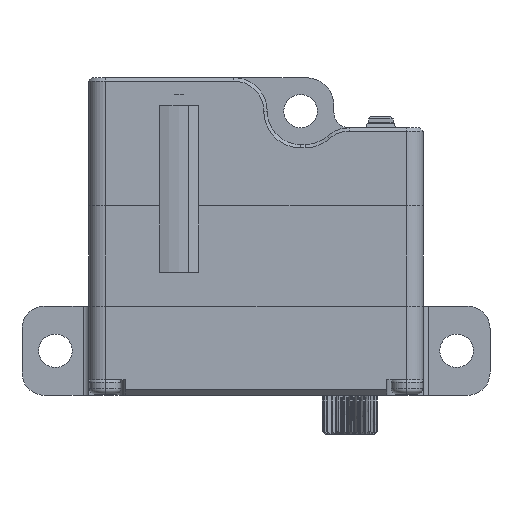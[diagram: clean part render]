
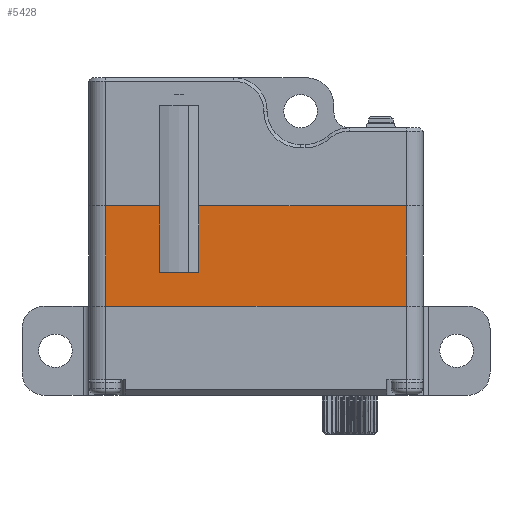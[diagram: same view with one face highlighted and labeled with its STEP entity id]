
A CAD part, left-side view. The second image highlights one B-rep face of the part: STEP entity #5428.
In plain terms, the highlighted planar face has unit normal (-1, 0, 0).
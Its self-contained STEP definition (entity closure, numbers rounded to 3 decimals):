
#821 = VERTEX_POINT ( 'NONE', #1037 ) ;
#1037 = CARTESIAN_POINT ( 'NONE',  ( -60.653, 4.865, 5.86 ) ) ;
#1995 = LINE ( 'NONE', #6853, #16471 ) ;
#2201 = DIRECTION ( 'NONE',  ( 0., 0., 1. ) ) ;
#2418 = DIRECTION ( 'NONE',  ( 0., 0., -1. ) ) ;
#2442 = EDGE_CURVE ( 'NONE', #13128, #3872, #9398, .T. ) ;
#3354 = ORIENTED_EDGE ( 'NONE', *, *, #21342, .T. ) ;
#3563 = LINE ( 'NONE', #8516, #6217 ) ;
#3840 = VECTOR ( 'NONE', #2418, 1000. ) ;
#3872 = VERTEX_POINT ( 'NONE', #13636 ) ;
#4441 = ORIENTED_EDGE ( 'NONE', *, *, #21484, .T. ) ;
#4700 = DIRECTION ( 'NONE',  ( -1., 0., 0. ) ) ;
#4837 = CARTESIAN_POINT ( 'NONE',  ( -60.653, 4.865, -3.59 ) ) ;
#5366 = CARTESIAN_POINT ( 'NONE',  ( -60.653, 13.22, -3.59 ) ) ;
#5428 = ADVANCED_FACE ( 'NONE', ( #12349 ), #12938, .T. ) ;
#5518 = VECTOR ( 'NONE', #12782, 1000. ) ;
#5689 = VECTOR ( 'NONE', #9739, 1000. ) ;
#5910 = ORIENTED_EDGE ( 'NONE', *, *, #18100, .T. ) ;
#6114 = VERTEX_POINT ( 'NONE', #21802 ) ;
#6217 = VECTOR ( 'NONE', #13622, 1000. ) ;
#6494 = DIRECTION ( 'NONE',  ( 0., -1., 0. ) ) ;
#6507 = LINE ( 'NONE', #4837, #19394 ) ;
#6600 = ORIENTED_EDGE ( 'NONE', *, *, #18267, .F. ) ;
#6853 = CARTESIAN_POINT ( 'NONE',  ( -60.653, 8.365, -3.59 ) ) ;
#7410 = ORIENTED_EDGE ( 'NONE', *, *, #8106, .F. ) ;
#7737 = CARTESIAN_POINT ( 'NONE',  ( -60.653, 8.365, -0.11 ) ) ;
#7932 = EDGE_CURVE ( 'NONE', #821, #13901, #6507, .T. ) ;
#8098 = VECTOR ( 'NONE', #6494, 1000. ) ;
#8106 = EDGE_CURVE ( 'NONE', #17295, #13901, #3563, .T. ) ;
#8119 = CARTESIAN_POINT ( 'NONE',  ( -60.653, -13.78, -3.14 ) ) ;
#8166 = VERTEX_POINT ( 'NONE', #8119 ) ;
#8516 = CARTESIAN_POINT ( 'NONE',  ( -60.653, 6.615, -0.11 ) ) ;
#8618 = DIRECTION ( 'NONE',  ( 0., 0., 1. ) ) ;
#8730 = VERTEX_POINT ( 'NONE', #16070 ) ;
#9253 = VECTOR ( 'NONE', #2201, 1000. ) ;
#9398 = LINE ( 'NONE', #5366, #3840 ) ;
#9672 = CARTESIAN_POINT ( 'NONE',  ( -60.653, 16.22, -3.14 ) ) ;
#9739 = DIRECTION ( 'NONE',  ( 0., -1., 0. ) ) ;
#9784 = DIRECTION ( 'NONE',  ( 0., -1., 0. ) ) ;
#10209 = EDGE_LOOP ( 'NONE', ( #3354, #5910, #12885, #14504, #7410, #4441, #6600, #17074 ) ) ;
#11563 = CARTESIAN_POINT ( 'NONE',  ( -60.653, 5.747, 5.86 ) ) ;
#12164 = CARTESIAN_POINT ( 'NONE',  ( -60.653, 4.865, -0.11 ) ) ;
#12349 = FACE_OUTER_BOUND ( 'NONE', #10209, .T. ) ;
#12652 = AXIS2_PLACEMENT_3D ( 'NONE', #21256, #4700, #9784 ) ;
#12782 = DIRECTION ( 'NONE',  ( 0., -1., 0. ) ) ;
#12885 = ORIENTED_EDGE ( 'NONE', *, *, #14286, .F. ) ;
#12938 = PLANE ( 'NONE',  #12652 ) ;
#13128 = VERTEX_POINT ( 'NONE', #21612 ) ;
#13622 = DIRECTION ( 'NONE',  ( 0., -1., 0. ) ) ;
#13636 = CARTESIAN_POINT ( 'NONE',  ( -60.653, 13.22, -3.14 ) ) ;
#13901 = VERTEX_POINT ( 'NONE', #12164 ) ;
#13954 = CARTESIAN_POINT ( 'NONE',  ( -60.653, -13.78, -3.59 ) ) ;
#14090 = LINE ( 'NONE', #9672, #5689 ) ;
#14286 = EDGE_CURVE ( 'NONE', #821, #8730, #20690, .T. ) ;
#14504 = ORIENTED_EDGE ( 'NONE', *, *, #7932, .T. ) ;
#16070 = CARTESIAN_POINT ( 'NONE',  ( -60.653, -13.78, 5.86 ) ) ;
#16471 = VECTOR ( 'NONE', #8618, 1000. ) ;
#17074 = ORIENTED_EDGE ( 'NONE', *, *, #2442, .T. ) ;
#17295 = VERTEX_POINT ( 'NONE', #7737 ) ;
#18100 = EDGE_CURVE ( 'NONE', #8166, #8730, #18176, .T. ) ;
#18176 = LINE ( 'NONE', #13954, #9253 ) ;
#18267 = EDGE_CURVE ( 'NONE', #13128, #6114, #19458, .T. ) ;
#18436 = DIRECTION ( 'NONE',  ( 0., 0., -1. ) ) ;
#19394 = VECTOR ( 'NONE', #18436, 1000. ) ;
#19410 = CARTESIAN_POINT ( 'NONE',  ( -60.653, 15.044, 5.86 ) ) ;
#19458 = LINE ( 'NONE', #19410, #5518 ) ;
#20690 = LINE ( 'NONE', #11563, #8098 ) ;
#21256 = CARTESIAN_POINT ( 'NONE',  ( -60.653, -15.13, -3.59 ) ) ;
#21342 = EDGE_CURVE ( 'NONE', #3872, #8166, #14090, .T. ) ;
#21484 = EDGE_CURVE ( 'NONE', #17295, #6114, #1995, .T. ) ;
#21612 = CARTESIAN_POINT ( 'NONE',  ( -60.653, 13.22, 5.86 ) ) ;
#21802 = CARTESIAN_POINT ( 'NONE',  ( -60.653, 8.365, 5.86 ) ) ;
